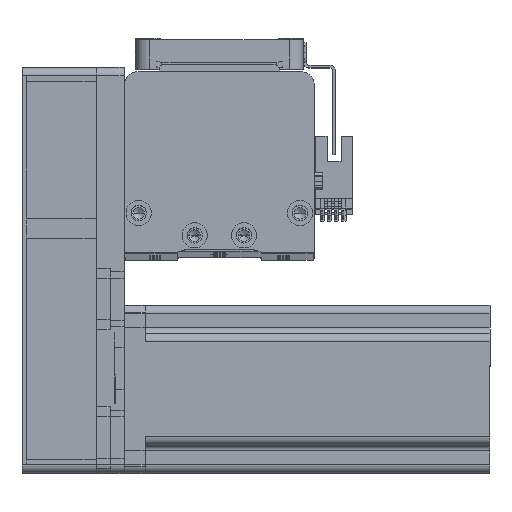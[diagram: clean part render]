
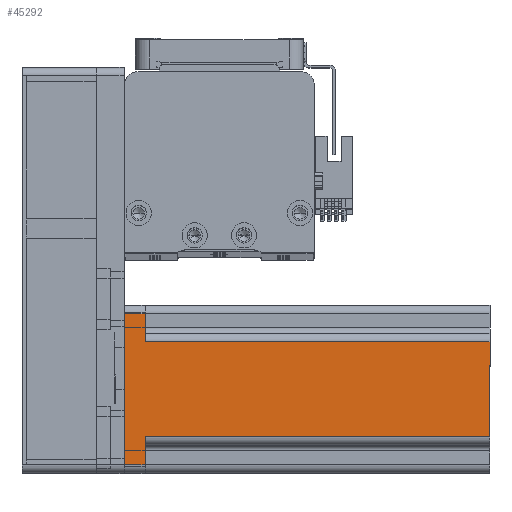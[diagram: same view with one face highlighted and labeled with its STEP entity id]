
A CAD part, top view. The second image highlights one B-rep face of the part: STEP entity #45292.
In plain terms, the highlighted planar face has unit normal (0, 0, 1) as drawn and (0, -1, 0) by its records, which use the part's own axes.
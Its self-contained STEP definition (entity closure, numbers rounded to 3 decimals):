
#754 = DIRECTION ( 'NONE',  ( 1., 0., 0. ) ) ;
#1533 = DIRECTION ( 'NONE',  ( 0., 0., 1. ) ) ;
#1831 = ORIENTED_EDGE ( 'NONE', *, *, #22191, .T. ) ;
#2815 = ORIENTED_EDGE ( 'NONE', *, *, #19322, .T. ) ;
#2850 = ORIENTED_EDGE ( 'NONE', *, *, #17423, .F. ) ;
#3082 = DIRECTION ( 'NONE',  ( 0., 0., -1. ) ) ;
#5189 = VECTOR ( 'NONE', #754, 1000. ) ;
#6471 = LINE ( 'NONE', #40850, #26618 ) ;
#6821 = VECTOR ( 'NONE', #3082, 1000. ) ;
#6851 = PLANE ( 'NONE',  #19616 ) ;
#7083 = CARTESIAN_POINT ( 'NONE',  ( -27., -30., 130.7 ) ) ;
#8759 = DIRECTION ( 'NONE',  ( -1., 0., 0. ) ) ;
#8952 = ORIENTED_EDGE ( 'NONE', *, *, #45539, .T. ) ;
#9498 = DIRECTION ( 'NONE',  ( 1., 0., 0. ) ) ;
#11841 = EDGE_CURVE ( 'NONE', #38838, #35898, #49674, .T. ) ;
#14698 = EDGE_CURVE ( 'NONE', #35905, #39827, #29613, .T. ) ;
#15475 = VERTEX_POINT ( 'NONE', #41116 ) ;
#15710 = CARTESIAN_POINT ( 'NONE',  ( -27., -30., 7.5 ) ) ;
#17417 = EDGE_CURVE ( 'NONE', #35898, #35705, #6471, .T. ) ;
#17423 = EDGE_CURVE ( 'NONE', #35905, #15475, #48034, .T. ) ;
#19243 = LINE ( 'NONE', #36913, #50128 ) ;
#19297 = LINE ( 'NONE', #26393, #38212 ) ;
#19322 = EDGE_CURVE ( 'NONE', #36627, #15475, #36352, .T. ) ;
#19616 = AXIS2_PLACEMENT_3D ( 'NONE', #47333, #23272, #51415 ) ;
#20799 = CARTESIAN_POINT ( 'NONE',  ( 30., -30., 130.7 ) ) ;
#22191 = EDGE_CURVE ( 'NONE', #35705, #25447, #19297, .T. ) ;
#23272 = DIRECTION ( 'NONE',  ( 0., 1., 0. ) ) ;
#23433 = ORIENTED_EDGE ( 'NONE', *, *, #11841, .T. ) ;
#25447 = VERTEX_POINT ( 'NONE', #46948 ) ;
#25634 = CARTESIAN_POINT ( 'NONE',  ( 17., -30., 130.7 ) ) ;
#26393 = CARTESIAN_POINT ( 'NONE',  ( 27., -30., 130.7 ) ) ;
#26618 = VECTOR ( 'NONE', #44915, 1000. ) ;
#26631 = DIRECTION ( 'NONE',  ( 0., 0., -1. ) ) ;
#26671 = ORIENTED_EDGE ( 'NONE', *, *, #17417, .T. ) ;
#28757 = FACE_OUTER_BOUND ( 'NONE', #38522, .T. ) ;
#29124 = CARTESIAN_POINT ( 'NONE',  ( 27., -30., 0. ) ) ;
#29613 = LINE ( 'NONE', #46692, #40281 ) ;
#33646 = CARTESIAN_POINT ( 'NONE',  ( -20., -30., 7.5 ) ) ;
#34878 = VECTOR ( 'NONE', #9498, 1000. ) ;
#35705 = VERTEX_POINT ( 'NONE', #29124 ) ;
#35898 = VERTEX_POINT ( 'NONE', #46708 ) ;
#35905 = VERTEX_POINT ( 'NONE', #50787 ) ;
#36352 = LINE ( 'NONE', #25634, #37626 ) ;
#36627 = VERTEX_POINT ( 'NONE', #47876 ) ;
#36913 = CARTESIAN_POINT ( 'NONE',  ( 20., -30., 7.5 ) ) ;
#37626 = VECTOR ( 'NONE', #1533, 1000. ) ;
#38212 = VECTOR ( 'NONE', #42383, 1000. ) ;
#38471 = CARTESIAN_POINT ( 'NONE',  ( -17., -30., 7.5 ) ) ;
#38522 = EDGE_LOOP ( 'NONE', ( #2850, #44039, #45679, #23433, #26671, #1831, #8952, #2815 ) ) ;
#38838 = VERTEX_POINT ( 'NONE', #15710 ) ;
#39827 = VERTEX_POINT ( 'NONE', #38471 ) ;
#40281 = VECTOR ( 'NONE', #26631, 1000. ) ;
#40697 = EDGE_CURVE ( 'NONE', #38838, #39827, #45556, .T. ) ;
#40850 = CARTESIAN_POINT ( 'NONE',  ( 30., -30., 0. ) ) ;
#41116 = CARTESIAN_POINT ( 'NONE',  ( 17., -30., 130.7 ) ) ;
#42383 = DIRECTION ( 'NONE',  ( 0., 0., 1. ) ) ;
#44039 = ORIENTED_EDGE ( 'NONE', *, *, #14698, .T. ) ;
#44915 = DIRECTION ( 'NONE',  ( 1., 0., 0. ) ) ;
#45292 = ADVANCED_FACE ( 'NONE', ( #28757 ), #6851, .F. ) ;
#45539 = EDGE_CURVE ( 'NONE', #25447, #36627, #19243, .T. ) ;
#45556 = LINE ( 'NONE', #33646, #34878 ) ;
#45679 = ORIENTED_EDGE ( 'NONE', *, *, #40697, .F. ) ;
#46692 = CARTESIAN_POINT ( 'NONE',  ( -17., -30., 130.7 ) ) ;
#46708 = CARTESIAN_POINT ( 'NONE',  ( -27., -30., 0. ) ) ;
#46948 = CARTESIAN_POINT ( 'NONE',  ( 27., -30., 7.5 ) ) ;
#47333 = CARTESIAN_POINT ( 'NONE',  ( 30., -30., 130.7 ) ) ;
#47876 = CARTESIAN_POINT ( 'NONE',  ( 17., -30., 7.5 ) ) ;
#48034 = LINE ( 'NONE', #20799, #5189 ) ;
#49674 = LINE ( 'NONE', #7083, #6821 ) ;
#50128 = VECTOR ( 'NONE', #8759, 1000. ) ;
#50787 = CARTESIAN_POINT ( 'NONE',  ( -17., -30., 130.7 ) ) ;
#51415 = DIRECTION ( 'NONE',  ( -1., 0., 0. ) ) ;
